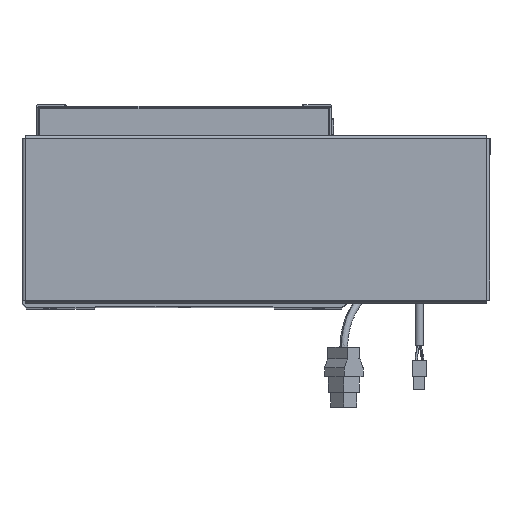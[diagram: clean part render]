
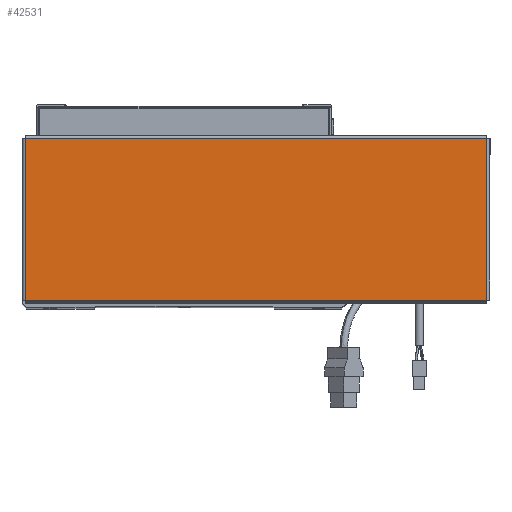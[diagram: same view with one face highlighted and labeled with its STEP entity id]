
A CAD part, top view. The second image highlights one B-rep face of the part: STEP entity #42531.
In plain terms, the highlighted planar face has unit normal (0, 0, 1).
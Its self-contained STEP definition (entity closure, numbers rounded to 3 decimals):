
#2263 = VERTEX_POINT ( 'NONE', #63420 ) ;
#6384 = CARTESIAN_POINT ( 'NONE',  ( 156.543, 54.763, 0. ) ) ;
#7071 = ORIENTED_EDGE ( 'NONE', *, *, #19886, .T. ) ;
#8060 = PLANE ( 'NONE',  #48533 ) ;
#11114 = LINE ( 'NONE', #39650, #61890 ) ;
#13506 = LINE ( 'NONE', #6384, #34283 ) ;
#13734 = DIRECTION ( 'NONE',  ( 1., 0., 0. ) ) ;
#14491 = VERTEX_POINT ( 'NONE', #50138 ) ;
#14767 = DIRECTION ( 'NONE',  ( 0., 1., 0. ) ) ;
#19572 = ORIENTED_EDGE ( 'NONE', *, *, #55265, .T. ) ;
#19747 = VECTOR ( 'NONE', #13734, 1000. ) ;
#19886 = EDGE_CURVE ( 'NONE', #32648, #14491, #55913, .T. ) ;
#20418 = CARTESIAN_POINT ( 'NONE',  ( -156.513, 54.793, 0. ) ) ;
#21010 = FACE_OUTER_BOUND ( 'NONE', #52856, .T. ) ;
#25937 = LINE ( 'NONE', #20418, #63749 ) ;
#30934 = EDGE_CURVE ( 'NONE', #51955, #2263, #13506, .T. ) ;
#32648 = VERTEX_POINT ( 'NONE', #61258 ) ;
#32667 = DIRECTION ( 'NONE',  ( 1., 0., 0. ) ) ;
#34283 = VECTOR ( 'NONE', #55003, 1000. ) ;
#35672 = ORIENTED_EDGE ( 'NONE', *, *, #46696, .T. ) ;
#39161 = ORIENTED_EDGE ( 'NONE', *, *, #30934, .T. ) ;
#39650 = CARTESIAN_POINT ( 'NONE',  ( 156.513, -54.793, 0. ) ) ;
#40192 = DIRECTION ( 'NONE',  ( 0., -1., 0. ) ) ;
#41080 = CARTESIAN_POINT ( 'NONE',  ( 0., 0., 0. ) ) ;
#42531 = ADVANCED_FACE ( 'NONE', ( #21010 ), #8060, .T. ) ;
#43113 = CARTESIAN_POINT ( 'NONE',  ( -156.543, -54.763, 0. ) ) ;
#46696 = EDGE_CURVE ( 'NONE', #2263, #32648, #25937, .T. ) ;
#48533 = AXIS2_PLACEMENT_3D ( 'NONE', #41080, #55716, #32667 ) ;
#50138 = CARTESIAN_POINT ( 'NONE',  ( 156.513, -54.763, 0. ) ) ;
#51955 = VERTEX_POINT ( 'NONE', #53621 ) ;
#52856 = EDGE_LOOP ( 'NONE', ( #7071, #19572, #39161, #35672 ) ) ;
#53621 = CARTESIAN_POINT ( 'NONE',  ( 156.513, 54.763, 0. ) ) ;
#55003 = DIRECTION ( 'NONE',  ( -1., 0., 0. ) ) ;
#55265 = EDGE_CURVE ( 'NONE', #14491, #51955, #11114, .T. ) ;
#55716 = DIRECTION ( 'NONE',  ( 0., 0., 1. ) ) ;
#55913 = LINE ( 'NONE', #43113, #19747 ) ;
#61258 = CARTESIAN_POINT ( 'NONE',  ( -156.513, -54.763, 0. ) ) ;
#61890 = VECTOR ( 'NONE', #14767, 1000. ) ;
#63420 = CARTESIAN_POINT ( 'NONE',  ( -156.513, 54.763, 0. ) ) ;
#63749 = VECTOR ( 'NONE', #40192, 1000. ) ;
